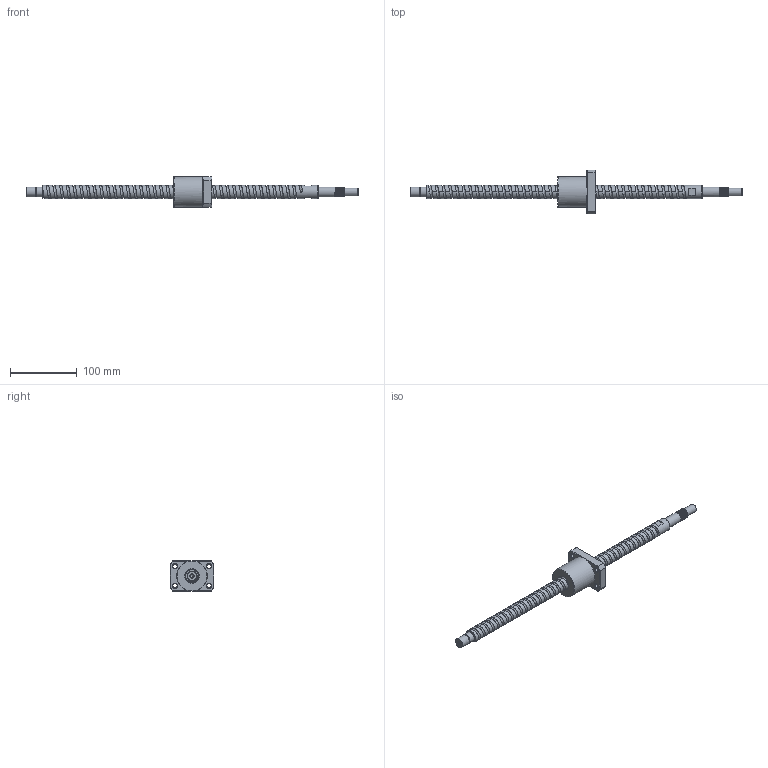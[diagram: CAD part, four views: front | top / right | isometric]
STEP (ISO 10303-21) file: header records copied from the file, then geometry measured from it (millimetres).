
FILE_DESCRIPTION (( 'STEP AP203' ), '1' );
FILE_NAME ('XSVR02010B1DGC5-499-P1.step', '2024-06-03T06:19:23', ( '' ), ( '' ), 'SwSTEP 2.0', 'SolidWorks 2022', '' );
FILE_SCHEMA (( 'CONFIG_CONTROL_DESIGN' ));
Length unit declared in the file: millimetre
Products named in the file (1): XSVR02010B1DGC5-499-P1
Bounding box: 499 x 66 x 46 mm (x, y, z)
Volume: 220321.5 mm3; surface area: 52646.5 mm2
Topology: 2 solids, 2 shells, 199 faces, 546 edges, 359 vertices
Faces by surface type: cylinder 99, plane 40, bspline 31, cone 20, torus 9
Full cylindrical faces by diameter (mm): 4 x1, 5 x15, 6.6 x4, 11 x4, 12 x1, 14.3 x1, 15 x16, 20 x39, 22.3 x1, 46 x1
Entity records: 27153 total; most frequent: CARTESIAN_POINT 24495, ORIENTED_EDGE 594, DIRECTION 409, EDGE_CURVE 297, VERTEX_POINT 212, EDGE_LOOP 187, AXIS2_PLACEMENT_3D 179, FACE_OUTER_BOUND 150
